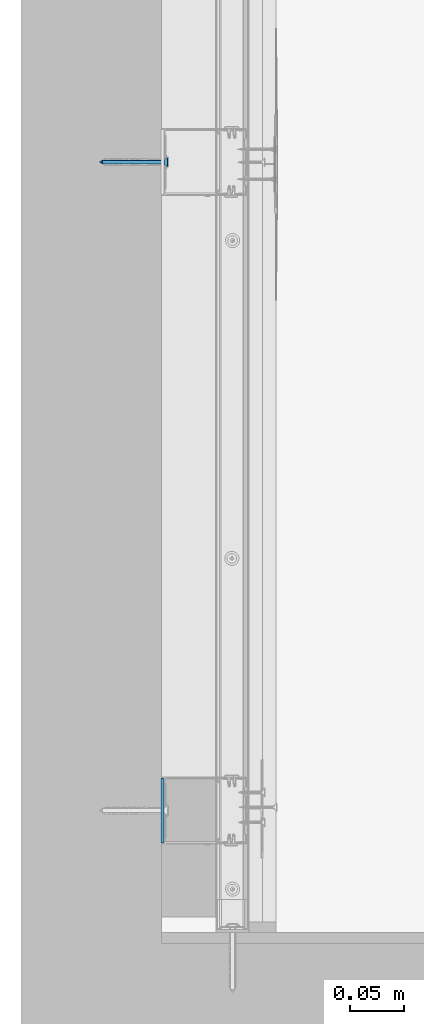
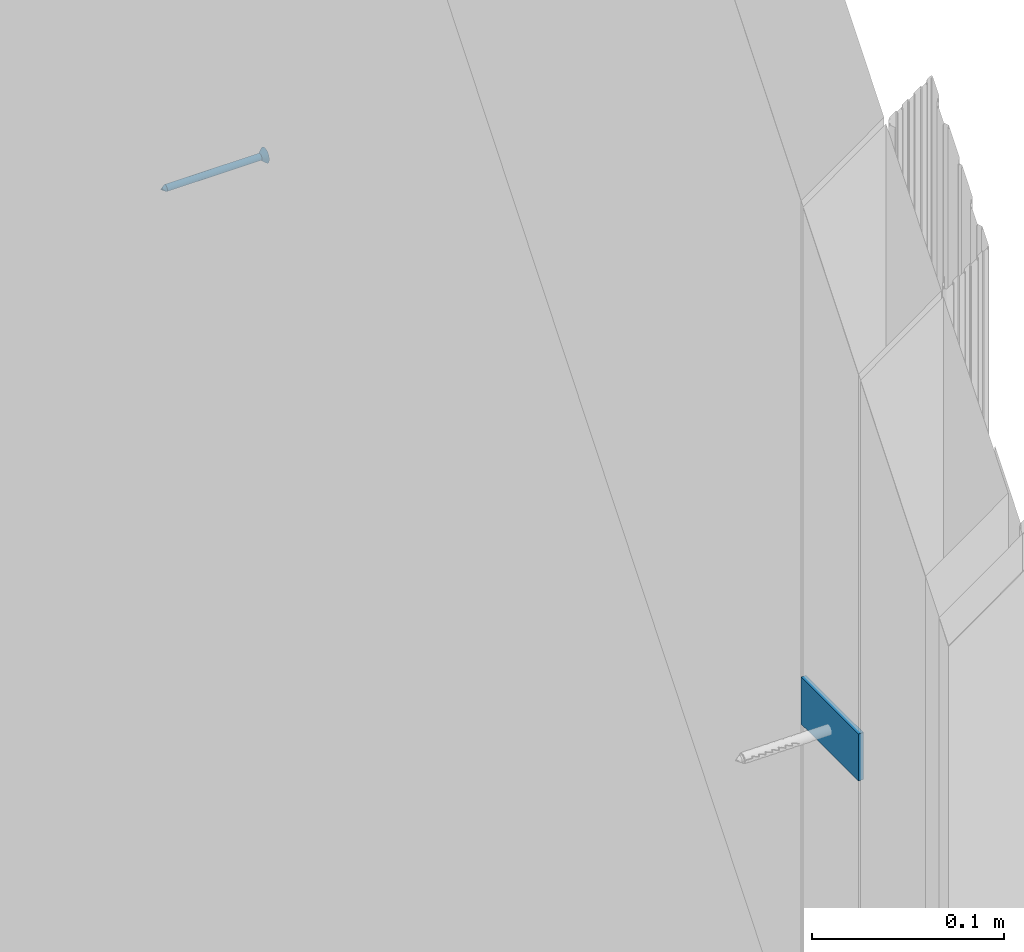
# One storey, part 26 of 61: 2 walls.
"""IFC2X3 building model written with IfcOpenShell, lengths in millimetres."""

from ifc_helpers import new_model, si_unit, frame, origin_with_axes, place, context, subcontext, project, spatial, faceted_brep, material, type_object, element, save


model = new_model("IFC2X3")

# Units and contexts
model_context = context("Model", 3, world=origin_with_axes())
body_context = subcontext(model_context, "Body", "Model", "MODEL_VIEW")
ifc_project = project(units=[si_unit("LENGTHUNIT", "METRE", prefix="MILLI"), si_unit("AREAUNIT", "SQUARE_METRE"), si_unit("VOLUMEUNIT", "CUBIC_METRE")], contexts=[model_context])

# Site, building, storey
site_placement = place(None, frame((2152.1410261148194, -2015.0250894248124, 57.61556563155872), z_axis=(0.0, 0.0, 1.0), x_axis=(-1.1102230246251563e-16, 1.0, 0.0)))
site = spatial("IfcSite", under=ifc_project, at=site_placement, Name="Default Site", CompositionType="ELEMENT")
building_placement = place(site_placement, origin_with_axes())
building = spatial("IfcBuilding", under=site, at=building_placement, Name="Default Building", CompositionType="ELEMENT")
storey_placement = place(building_placement, origin_with_axes())
storey = spatial("IfcBuildingStorey", under=building, at=storey_placement, Name="Default Building Storey", CompositionType="ELEMENT", Elevation=57.61556563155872)

# Walls
ifc_material = material(Name="Default")
wall_type_1 = type_object("IfcWallType", Name="Kołek rozporowy min. fi 6#13", PredefinedType="NOTDEFINED")
wall_1_placement = place(storey_placement, frame((6291.176283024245, 2016.3286110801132, 2697.561302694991), z_axis=(-6.858158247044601e-13, -1.0, 7.64238051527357e-14), x_axis=(-1.6476028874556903e-11, 7.642380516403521e-14, 1.0)))
element("IfcWall", 1, at=wall_1_placement, inside=storey, type_object=wall_type_1, material=ifc_material, Name="Kołek rozporowy min. fi 6", context=body_context, shape_type="Brep", body=[
    faceted_brep([(-1438.3141994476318, 3453.2833099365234, -0.46425670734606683), (-1435.8141422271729, 3453.2833099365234, -3.464256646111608), (-1435.7895851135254, 3452.970266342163, -3.464256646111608), (-1438.2587671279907, 3452.579259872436, -0.46425670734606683), (-1435.7162714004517, 3452.6650905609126, -3.464256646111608), (-1438.093900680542, 3451.892614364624, -0.46425670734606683), (-1435.5961084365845, 3452.3751735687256, -3.464256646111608), (-1437.8236532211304, 3451.240301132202, -0.46425670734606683), (-1435.4321956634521, 3452.107667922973, -3.464256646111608), (-1437.4547004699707, 3450.6382942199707, -0.46425670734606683), (-1435.22834777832, 3451.8690109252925, -3.464256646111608), (-1436.9961023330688, 3450.101137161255, -0.46425670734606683), (-1434.9896907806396, 3451.665163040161, -3.464256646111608), (-1436.4591836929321, 3449.642658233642, -0.46425670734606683), (-1434.7221851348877, 3451.501131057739, -3.464256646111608), (-1435.8570575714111, 3449.2735862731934, -0.46425670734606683), (-1434.4321489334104, 3451.381206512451, -3.464256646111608), (-1435.2047443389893, 3449.0034580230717, -0.46425670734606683), (-1434.1269731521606, 3451.307773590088, -3.464256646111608), (-1434.5180988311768, 3448.838710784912, -0.46425670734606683), (-1433.8141679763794, 3451.28321647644, -3.464256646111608), (-1433.8141679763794, 3448.7831592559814, -0.46425670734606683), (-1433.5012435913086, 3451.307773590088, -3.464256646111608), (-1433.110237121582, 3448.838710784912, -0.46425670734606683), (-1433.1960678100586, 3451.381206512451, -3.464256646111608), (-1432.4235916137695, 3449.0034580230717, -0.46425670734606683), (-1432.9061508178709, 3451.501131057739, -3.464256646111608), (-1431.771159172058, 3449.2735862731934, -0.46425670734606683), (-1432.6385259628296, 3451.665163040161, -3.464256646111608), (-1431.1691522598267, 3449.642658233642, -0.46425670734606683), (-1432.3999881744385, 3451.8690109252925, -3.464256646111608), (-1430.6321144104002, 3450.101137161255, -0.46425670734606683), (-1432.1961402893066, 3452.107667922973, -3.464256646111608), (-1430.1735162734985, 3450.6382942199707, -0.46425670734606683), (-1432.0321083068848, 3452.3751735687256, -3.464256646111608), (-1429.8045635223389, 3451.240301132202, -0.46425670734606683), (-1431.9120645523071, 3452.6650905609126, -3.464256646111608), (-1429.5344352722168, 3451.892614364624, -0.46425670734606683), (-1431.8387508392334, 3453.5961151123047, -3.464256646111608), (-1429.369568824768, 3453.9871215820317, -0.46425670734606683), (-1429.314136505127, 3453.2833099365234, -0.46425670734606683), (-1431.814193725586, 3453.2833099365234, -3.464256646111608), (-1429.369568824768, 3452.579259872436, -0.46425670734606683), (-1431.8387508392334, 3452.970266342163, -3.464256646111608), (-1431.9120645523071, 3453.9012908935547, -3.464256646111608), (-1429.5344352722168, 3454.6737670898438, -0.46425670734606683), (-1432.0321083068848, 3454.191207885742, -3.464256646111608), (-1429.8045635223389, 3455.3260803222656, -0.46425670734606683), (-1432.1961402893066, 3454.458713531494, -3.464256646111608), (-1430.1735162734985, 3455.9283256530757, -0.46425670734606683), (-1432.3999881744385, 3454.6973705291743, -3.464256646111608), (-1430.6321144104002, 3456.465244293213, -0.46425670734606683), (-1432.6385259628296, 3454.9012184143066, -3.464256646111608), (-1431.1691522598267, 3456.923723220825, -0.46425670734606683), (-1432.9061508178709, 3455.065250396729, -3.464256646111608), (-1431.771159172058, 3457.2927951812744, -0.46425670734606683), (-1433.1960678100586, 3455.1854133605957, -3.464256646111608), (-1432.4235916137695, 3457.562923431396, -0.46425670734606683), (-1433.5012435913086, 3455.25860786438, -3.464256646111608), (-1433.110237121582, 3457.7279090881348, -0.46425670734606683), (-1433.8141679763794, 3455.283164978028, -3.464256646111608), (-1433.8141679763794, 3457.7832221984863, -0.46425670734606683), (-1434.3430995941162, 3457.7519893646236, -0.46425670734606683), (-1434.1269731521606, 3455.25860786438, -3.464256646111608), (-1434.4321489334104, 3455.1854133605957, -3.464256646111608), (-1434.8646402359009, 3457.6590061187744, -0.46425670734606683), (-1435.3716373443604, 3457.504987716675, -0.46425670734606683), (-1434.7221851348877, 3455.065250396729, -3.464256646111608), (-1435.8570575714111, 3457.2927951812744, -0.46425670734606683), (-1434.9896907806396, 3454.9012184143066, -3.464256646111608), (-1435.22834777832, 3454.6973705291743, -3.464256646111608), (-1436.3142251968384, 3457.024812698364, -0.46425670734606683), (-1436.7367029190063, 3456.705093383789, -0.46425670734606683), (-1437.118649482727, 3456.337928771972, -0.46425670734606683), (-1437.4547004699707, 3455.9283256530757, -0.46425670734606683), (-1435.4321956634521, 3454.458713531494, -3.464256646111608), (-1435.5961084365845, 3454.191207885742, -3.464256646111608), (-1437.8236532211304, 3455.3260803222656, -0.46425670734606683), (-1435.7162714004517, 3453.9012908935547, -3.464256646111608), (-1438.093900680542, 3454.6737670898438, -0.46425670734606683), (-1435.7895851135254, 3453.5961151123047, -3.464256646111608), (-1438.2587671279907, 3453.9871215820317, -0.46425670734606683), (-1434.2052936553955, 3455.752372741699, 0.20073754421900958), (-1433.8141679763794, 3455.7831287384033, 0.20073754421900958), (-1434.5866441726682, 3455.6608200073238, 0.20073754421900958), (-1434.9491596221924, 3455.510854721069, 0.20073754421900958), (-1435.2836608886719, 3455.305814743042, 0.20073754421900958), (-1435.581922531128, 3455.0509452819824, 0.20073754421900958), (-1435.836672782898, 3454.7526836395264, 0.20073754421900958), (-1436.0417127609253, 3454.418182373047, 0.20073754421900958), (-1436.1917972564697, 3454.0557861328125, 0.20073754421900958), (-1436.2833499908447, 3453.6743164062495, 0.20073754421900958), (-1436.3141059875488, 3453.2833099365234, 0.20073754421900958), (-1436.2833499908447, 3452.8920650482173, 0.20073754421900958), (-1436.1917972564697, 3452.5105953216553, 0.20073754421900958), (-1436.0417127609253, 3452.148199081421, 0.20073754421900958), (-1435.836672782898, 3451.8136978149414, 0.20073754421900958), (-1435.581922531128, 3451.5154361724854, 0.20073754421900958), (-1435.2836608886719, 3451.260566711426, 0.20073754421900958), (-1434.9491596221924, 3451.0557651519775, 0.20073754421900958), (-1434.5866441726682, 3450.905561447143, 0.20073754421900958), (-1433.4230422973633, 3450.8140087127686, 0.20073754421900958), (-1433.8141679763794, 3450.7832527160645, 0.20073754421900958), (-1434.2052936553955, 3450.8140087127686, 0.20073754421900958), (-1433.0415725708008, 3450.905561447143, 0.20073754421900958), (-1432.6791763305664, 3451.0557651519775, 0.20073754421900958), (-1432.344675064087, 3451.260566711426, 0.20073754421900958), (-1432.0464134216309, 3451.5154361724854, 0.20073754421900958), (-1431.7916631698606, 3451.8136978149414, 0.20073754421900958), (-1431.5866231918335, 3452.148199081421, 0.20073754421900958), (-1431.436538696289, 3452.5105953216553, 0.20073754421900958), (-1431.344985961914, 3452.8920650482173, 0.20073754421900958), (-1431.3141107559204, 3453.2833099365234, 0.20073754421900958), (-1431.344985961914, 3453.6743164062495, 0.20073754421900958), (-1431.436538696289, 3454.0557861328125, 0.20073754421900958), (-1431.5866231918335, 3454.418182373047, 0.20073754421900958), (-1431.7916631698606, 3454.7526836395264, 0.20073754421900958), (-1432.0464134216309, 3455.0509452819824, 0.20073754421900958), (-1432.344675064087, 3455.305814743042, 0.20073754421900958), (-1432.6791763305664, 3455.510854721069, 0.20073754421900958), (-1433.0415725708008, 3455.6608200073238, 0.20073754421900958), (-1433.4230422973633, 3455.752372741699, 0.20073754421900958), (-1433.8141679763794, 3453.2833099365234, -63.46425414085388), (-1435.7895851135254, 3452.970266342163, -60.464255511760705), (-1435.8141422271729, 3453.2833099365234, -60.464255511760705), (-1435.7162714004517, 3452.6650905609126, -60.464255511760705), (-1435.5961084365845, 3452.3751735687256, -60.464255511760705), (-1435.4321956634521, 3452.107667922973, -60.464255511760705), (-1435.22834777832, 3451.8690109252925, -60.464255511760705), (-1434.9896907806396, 3451.665163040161, -60.464255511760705), (-1434.7221851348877, 3451.501131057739, -60.464255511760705), (-1434.4321489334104, 3451.381206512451, -60.464255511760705), (-1434.1269731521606, 3451.307773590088, -60.464255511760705), (-1433.8141679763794, 3451.28321647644, -60.464255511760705), (-1433.5012435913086, 3451.307773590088, -60.464255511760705), (-1433.1960678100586, 3451.381206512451, -60.464255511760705), (-1432.9061508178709, 3451.501131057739, -60.464255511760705), (-1432.6385259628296, 3451.665163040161, -60.464255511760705), (-1432.3999881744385, 3451.8690109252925, -60.464255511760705), (-1432.1961402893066, 3452.107667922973, -60.464255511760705), (-1432.0321083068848, 3452.3751735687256, -60.464255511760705), (-1431.9120645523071, 3452.6650905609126, -60.464255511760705), (-1431.8387508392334, 3452.970266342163, -60.464255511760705), (-1431.814193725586, 3453.2833099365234, -60.464255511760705), (-1431.8387508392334, 3453.5961151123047, -60.464255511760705), (-1431.9120645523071, 3453.9012908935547, -60.464255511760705), (-1432.0321083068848, 3454.191207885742, -60.464255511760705), (-1432.1961402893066, 3454.458713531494, -60.464255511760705), (-1432.3999881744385, 3454.6973705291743, -60.464255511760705), (-1432.6385259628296, 3454.9012184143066, -60.464255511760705), (-1432.9061508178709, 3455.065250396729, -60.464255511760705), (-1433.1960678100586, 3455.1854133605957, -60.464255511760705), (-1433.5012435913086, 3455.25860786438, -60.464255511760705), (-1433.8141679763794, 3455.283164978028, -60.464255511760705), (-1434.1269731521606, 3455.25860786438, -60.464255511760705), (-1434.4321489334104, 3455.1854133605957, -60.464255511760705), (-1434.7221851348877, 3455.065250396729, -60.464255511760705), (-1434.9896907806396, 3454.9012184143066, -60.464255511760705), (-1435.22834777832, 3454.6973705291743, -60.464255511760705), (-1435.4321956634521, 3454.458713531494, -60.464255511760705), (-1435.5961084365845, 3454.191207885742, -60.464255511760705), (-1435.7162714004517, 3453.9012908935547, -60.464255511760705), (-1435.7895851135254, 3453.5961151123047, -60.464255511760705), (-1436.0417127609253, 3454.418182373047, 0.049999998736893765), (-1436.1917972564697, 3454.0557861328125, 0.049999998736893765), (-1436.2833499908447, 3453.6743164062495, 0.049999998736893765), (-1436.3141059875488, 3453.2833099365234, 0.049999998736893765), (-1436.2833499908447, 3452.8920650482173, 0.049999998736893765), (-1436.1917972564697, 3452.5105953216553, 0.049999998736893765), (-1436.0417127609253, 3452.148199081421, 0.049999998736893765), (-1435.836672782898, 3451.8136978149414, 0.049999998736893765), (-1435.581922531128, 3451.5154361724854, 0.049999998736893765), (-1435.2836608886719, 3451.260566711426, 0.049999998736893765), (-1434.9491596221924, 3451.0557651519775, 0.049999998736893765), (-1434.5866441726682, 3450.905561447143, 0.049999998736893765), (-1434.2052936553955, 3450.8140087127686, 0.049999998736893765), (-1433.8141679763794, 3450.7832527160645, 0.049999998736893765), (-1433.4230422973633, 3450.8140087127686, 0.049999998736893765), (-1433.0415725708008, 3450.905561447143, 0.049999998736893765), (-1432.6791763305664, 3451.0557651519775, 0.049999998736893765), (-1432.344675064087, 3451.260566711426, 0.049999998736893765), (-1432.0464134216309, 3451.5154361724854, 0.049999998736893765), (-1431.7916631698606, 3451.8136978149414, 0.049999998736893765), (-1431.5866231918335, 3452.148199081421, 0.049999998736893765), (-1431.436538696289, 3452.5105953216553, 0.049999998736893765), (-1431.344985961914, 3452.8920650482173, 0.049999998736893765), (-1431.3141107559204, 3453.2833099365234, 0.049999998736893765), (-1431.344985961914, 3453.6743164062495, 0.049999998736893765), (-1431.436538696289, 3454.0557861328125, 0.049999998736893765), (-1431.5866231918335, 3454.418182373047, 0.049999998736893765), (-1431.7916631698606, 3454.7526836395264, 0.049999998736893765), (-1432.0464134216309, 3455.0509452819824, 0.049999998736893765), (-1432.344675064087, 3455.305814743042, 0.049999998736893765), (-1432.6791763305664, 3455.510854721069, 0.049999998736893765), (-1433.0415725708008, 3455.6608200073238, 0.049999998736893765), (-1433.4230422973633, 3455.752372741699, 0.049999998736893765), (-1433.8141679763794, 3455.7831287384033, 0.049999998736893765), (-1434.2052936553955, 3455.752372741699, 0.049999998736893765), (-1434.5866441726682, 3455.6608200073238, 0.049999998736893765), (-1434.9491596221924, 3455.510854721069, 0.049999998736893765), (-1435.2836608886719, 3455.305814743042, 0.049999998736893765), (-1435.581922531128, 3455.0509452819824, 0.049999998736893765), (-1435.836672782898, 3454.7526836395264, 0.049999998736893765), (-1434.3141317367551, 3452.7831077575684, 0.049999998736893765), (-1435.8141422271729, 3452.7831077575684, 0.049999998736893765), (-1435.8141422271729, 3453.7832736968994, 0.049999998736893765), (-1434.3141317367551, 3453.7832736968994, 0.049999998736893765), (-1434.3141317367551, 3455.283164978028, 0.049999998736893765), (-1433.3142042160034, 3455.283164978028, 0.049999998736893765), (-1433.3142042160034, 3453.7832736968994, 0.049999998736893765), (-1431.814193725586, 3453.7832736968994, 0.049999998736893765), (-1431.814193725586, 3452.7831077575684, 0.049999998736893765), (-1433.3142042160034, 3452.7831077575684, 0.049999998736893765), (-1433.3142042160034, 3451.28321647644, 0.049999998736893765), (-1434.3141317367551, 3451.28321647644, 0.049999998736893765), (-1434.3141317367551, 3452.7831077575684, -1.799262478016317), (-1434.3141317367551, 3451.28321647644, -1.799262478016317), (-1433.3142042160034, 3451.28321647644, -1.799262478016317), (-1433.3142042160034, 3452.7831077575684, -1.799262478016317), (-1431.814193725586, 3452.7831077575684, -1.799262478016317), (-1431.814193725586, 3453.7832736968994, -1.799262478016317), (-1433.3142042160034, 3453.7832736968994, -1.799262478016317), (-1433.3142042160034, 3455.283164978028, -1.799262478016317), (-1434.3141317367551, 3455.283164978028, -1.799262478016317), (-1434.3141317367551, 3453.7832736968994, -1.799262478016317), (-1435.8141422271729, 3453.7832736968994, -1.799262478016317), (-1435.8141422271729, 3452.7831077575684, -1.799262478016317)], [[[0, 1, 2, 3]], [[4, 5, 3, 2]], [[6, 7, 5, 4]], [[7, 6, 8, 9]], [[10, 11, 9, 8]], [[11, 10, 12, 13]], [[14, 15, 13, 12]], [[16, 17, 15, 14]], [[17, 16, 18, 19]], [[20, 21, 19, 18]], [[21, 20, 22, 23]], [[24, 25, 23, 22]], [[26, 27, 25, 24]], [[27, 26, 28, 29]], [[30, 31, 29, 28]], [[31, 30, 32, 33]], [[34, 35, 33, 32]], [[36, 37, 35, 34]], [[38, 39, 40, 41]], [[41, 40, 42, 43]], [[37, 36, 43, 42]], [[44, 45, 39, 38]], [[46, 47, 45, 44]], [[47, 46, 48, 49]], [[50, 51, 49, 48]], [[51, 50, 52, 53]], [[54, 55, 53, 52]], [[56, 57, 55, 54]], [[57, 56, 58, 59]], [[60, 61, 59, 58]], [[62, 61, 63]], [[61, 60, 63]], [[63, 64, 62]], [[64, 65, 62]], [[66, 65, 64]], [[64, 67, 66]], [[67, 68, 66]], [[69, 70, 71]], [[70, 72, 71]], [[71, 68, 69]], [[68, 67, 69]], [[70, 73, 72]], [[74, 73, 75]], [[73, 70, 75]], [[76, 77, 74, 75]], [[78, 79, 77, 76]], [[79, 78, 80, 81]], [[1, 0, 81, 80]], [[82, 83, 62]], [[83, 61, 62]], [[62, 65, 82]], [[65, 84, 82]], [[66, 68, 84]], [[68, 85, 84]], [[84, 65, 66]], [[86, 85, 71]], [[85, 68, 71]], [[72, 73, 87]], [[87, 86, 72]], [[86, 71, 72]], [[88, 87, 74]], [[87, 73, 74]], [[77, 89, 88, 74]], [[79, 90, 89, 77]], [[90, 79, 81, 91]], [[0, 92, 91, 81]], [[92, 0, 3, 93]], [[5, 94, 93, 3]], [[7, 95, 94, 5]], [[95, 7, 9, 96]], [[11, 97, 96, 9]], [[97, 11, 13, 98]], [[15, 99, 98, 13]], [[17, 100, 99, 15]], [[23, 101, 102, 21]], [[21, 102, 103, 19]], [[100, 17, 19, 103]], [[25, 104, 101, 23]], [[27, 105, 104, 25]], [[105, 27, 29, 106]], [[31, 107, 106, 29]], [[107, 31, 33, 108]], [[35, 109, 108, 33]], [[37, 110, 109, 35]], [[110, 37, 42, 111]], [[40, 112, 111, 42]], [[112, 40, 39, 113]], [[45, 114, 113, 39]], [[47, 115, 114, 45]], [[115, 47, 49, 116]], [[51, 117, 116, 49]], [[117, 51, 53, 118]], [[55, 119, 118, 53]], [[57, 120, 119, 55]], [[120, 57, 59, 121]], [[61, 83, 121, 59]], [[122, 123, 124]], [[122, 125, 123]], [[122, 126, 125]], [[127, 126, 122]], [[122, 128, 127]], [[129, 128, 122]], [[122, 130, 129]], [[122, 131, 130]], [[132, 131, 122]], [[122, 133, 132]], [[134, 133, 122]], [[122, 135, 134]], [[122, 136, 135]], [[137, 136, 122]], [[122, 138, 137]], [[139, 138, 122]], [[122, 140, 139]], [[122, 141, 140]], [[142, 141, 122]], [[122, 143, 142]], [[144, 143, 122]], [[122, 145, 144]], [[122, 146, 145]], [[147, 146, 122]], [[122, 148, 147]], [[149, 148, 122]], [[122, 150, 149]], [[122, 151, 150]], [[152, 151, 122]], [[122, 153, 152]], [[154, 153, 122]], [[122, 155, 154]], [[122, 156, 155]], [[157, 156, 122]], [[122, 158, 157]], [[159, 158, 122]], [[122, 160, 159]], [[122, 161, 160]], [[162, 161, 122]], [[124, 162, 122]], [[1, 124, 123, 2]], [[125, 4, 2, 123]], [[126, 6, 4, 125]], [[6, 126, 127, 8]], [[128, 10, 8, 127]], [[10, 128, 129, 12]], [[130, 14, 12, 129]], [[131, 16, 14, 130]], [[16, 131, 132, 18]], [[133, 20, 18, 132]], [[20, 133, 134, 22]], [[135, 24, 22, 134]], [[136, 26, 24, 135]], [[26, 136, 137, 28]], [[138, 30, 28, 137]], [[30, 138, 139, 32]], [[140, 34, 32, 139]], [[141, 36, 34, 140]], [[144, 38, 41, 143]], [[143, 41, 43, 142]], [[36, 141, 142, 43]], [[145, 44, 38, 144]], [[146, 46, 44, 145]], [[46, 146, 147, 48]], [[148, 50, 48, 147]], [[50, 148, 149, 52]], [[150, 54, 52, 149]], [[151, 56, 54, 150]], [[56, 151, 152, 58]], [[153, 60, 58, 152]], [[60, 153, 154, 63]], [[155, 64, 63, 154]], [[156, 67, 64, 155]], [[67, 156, 157, 69]], [[158, 70, 69, 157]], [[70, 158, 159, 75]], [[160, 76, 75, 159]], [[161, 78, 76, 160]], [[78, 161, 162, 80]], [[124, 1, 80, 162]], [[163, 164, 165, 166, 167, 168, 169, 170, 171, 172, 173, 174, 175, 176, 177, 178, 179, 180, 181, 182, 183, 184, 185, 186, 187, 188, 189, 190, 191, 192, 193, 194, 195, 196, 197, 198, 199, 200, 201, 202], [203, 204, 205, 206, 207, 208, 209, 210, 211, 212, 213, 214]], [[187, 186, 112, 113]], [[113, 114, 188, 187]], [[114, 115, 189, 188]], [[190, 189, 115, 116]], [[116, 117, 191, 190]], [[192, 191, 117, 118]], [[118, 119, 193, 192]], [[119, 120, 194, 193]], [[195, 194, 120, 121]], [[121, 83, 196, 195]], [[197, 196, 83, 82]], [[82, 84, 198, 197]], [[84, 85, 199, 198]], [[200, 199, 85, 86]], [[86, 87, 201, 200]], [[202, 201, 87, 88]], [[88, 89, 163, 202]], [[89, 90, 164, 163]], [[92, 93, 167, 166]], [[91, 92, 166, 165]], [[165, 164, 90, 91]], [[93, 94, 168, 167]], [[94, 95, 169, 168]], [[170, 169, 95, 96]], [[96, 97, 171, 170]], [[172, 171, 97, 98]], [[98, 99, 173, 172]], [[99, 100, 174, 173]], [[175, 174, 100, 103]], [[103, 102, 176, 175]], [[177, 176, 102, 101]], [[101, 104, 178, 177]], [[104, 105, 179, 178]], [[180, 179, 105, 106]], [[106, 107, 181, 180]], [[182, 181, 107, 108]], [[108, 109, 183, 182]], [[109, 110, 184, 183]], [[185, 184, 110, 111]], [[111, 112, 186, 185]], [[215, 216, 217, 218, 219, 220, 221, 222, 223, 224, 225, 226]], [[216, 214, 213, 217]], [[215, 203, 214, 216]], [[226, 204, 203, 215]], [[225, 205, 204, 226]], [[224, 206, 205, 225]], [[223, 207, 206, 224]], [[222, 208, 207, 223]], [[221, 209, 208, 222]], [[220, 210, 209, 221]], [[219, 211, 210, 220]], [[218, 212, 211, 219]], [[217, 213, 212, 218]]]),
])
wall_type_2 = type_object("IfcWallType", Name="Taśma uszczelniająca piankowa RIGIPS szer.30mm#1", PredefinedType="NOTDEFINED")
wall_2_placement = place(storey_placement, frame((2208.0370864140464, 2019.7786110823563, 1278.84966049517), z_axis=(0.0, 0.0, 1.0), x_axis=(1.0, 0.0, 0.0)))
element("IfcWall", 2, at=wall_2_placement, inside=storey, type_object=wall_type_2, material=ifc_material, Name="Taśma uszczelniająca piankowa RIGIPS szer.30mm", context=body_context, shape_type="Brep", body=[
    faceted_brep([(59.99999865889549, 0.0, 4.511946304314e-12), (0.0, 0.0, 0.0), (1.0828671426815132e-12, -2.2379254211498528e-11, -29.999999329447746), (59.99999865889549, -2.2379254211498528e-11, -29.999999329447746), (0.0, 3.000000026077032, 0.0), (1.0828671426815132e-12, 3.000000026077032, -29.999999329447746), (59.99999865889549, 3.000000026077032, 0.0), (59.99999865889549, 3.000000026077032, -29.999999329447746)], [[[0, 1, 2, 3]], [[1, 4, 5, 2]], [[4, 6, 7, 5]], [[6, 0, 3, 7]], [[7, 3, 2, 5]], [[0, 6, 4, 1]]]),
])

save(model, "model.ifc")
